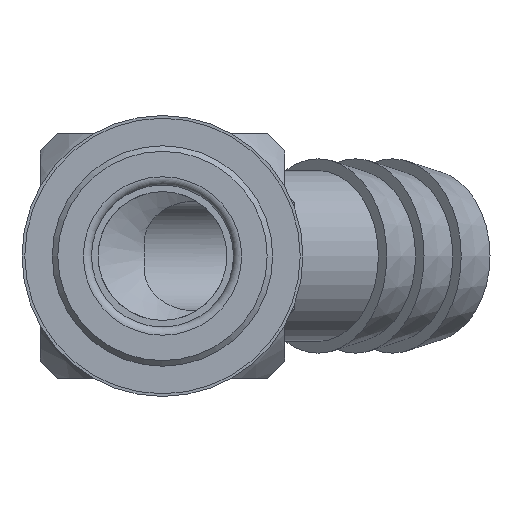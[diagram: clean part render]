
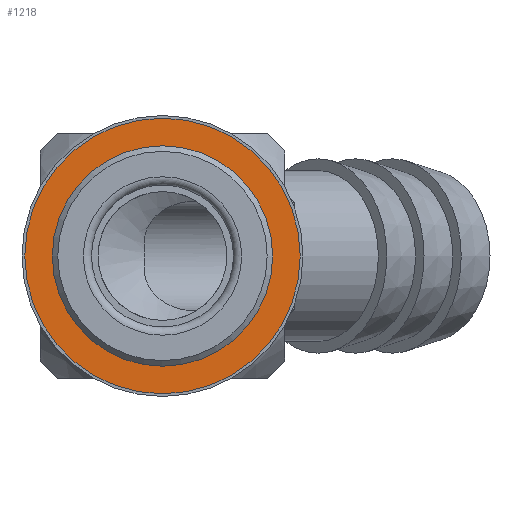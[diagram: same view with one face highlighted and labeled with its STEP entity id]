
A CAD part, left-side view. The second image highlights one B-rep face of the part: STEP entity #1218.
In plain terms, the highlighted planar face has unit normal (-1, 0, 0).
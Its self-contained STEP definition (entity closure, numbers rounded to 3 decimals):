
#146=PLANE('',#1344);
#246=CIRCLE('',#1343,9.04);
#247=CIRCLE('',#1345,11.3);
#334=ORIENTED_EDGE('',*,*,#682,.F.);
#335=ORIENTED_EDGE('',*,*,#681,.T.);
#681=EDGE_CURVE('',#855,#855,#246,.T.);
#682=EDGE_CURVE('',#856,#856,#247,.T.);
#855=VERTEX_POINT('',#1971);
#856=VERTEX_POINT('',#1974);
#989=EDGE_LOOP('',(#334));
#990=EDGE_LOOP('',(#335));
#1101=FACE_BOUND('',#989,.T.);
#1102=FACE_BOUND('',#990,.T.);
#1218=ADVANCED_FACE('',(#1101,#1102),#146,.F.);
#1343=AXIS2_PLACEMENT_3D('',#1970,#1546,#1547);
#1344=AXIS2_PLACEMENT_3D('',#1972,#1548,#1549);
#1345=AXIS2_PLACEMENT_3D('',#1973,#1550,#1551);
#1546=DIRECTION('',(1.,0.,0.));
#1547=DIRECTION('',(0.,0.,-1.));
#1548=DIRECTION('',(1.,0.,0.));
#1549=DIRECTION('',(0.,0.,-1.));
#1550=DIRECTION('',(1.,0.,0.));
#1551=DIRECTION('',(0.,0.,-1.));
#1970=CARTESIAN_POINT('',(0.,0.,0.));
#1971=CARTESIAN_POINT('',(0.,0.,-9.04));
#1972=CARTESIAN_POINT('',(0.,9.04,0.));
#1973=CARTESIAN_POINT('',(0.,0.,0.));
#1974=CARTESIAN_POINT('',(0.,0.,-11.3));
